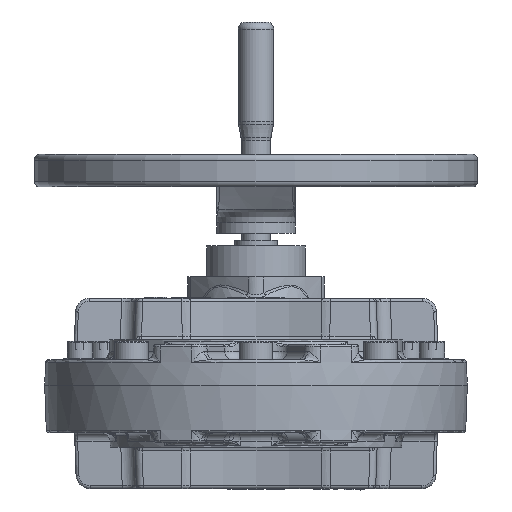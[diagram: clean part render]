
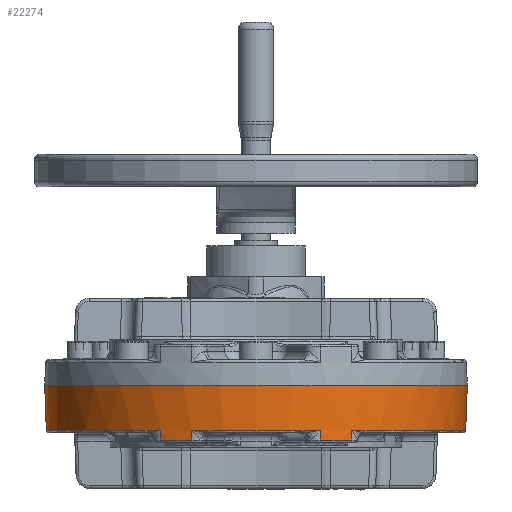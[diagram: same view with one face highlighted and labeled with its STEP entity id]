
A CAD part, front view. The second image highlights one B-rep face of the part: STEP entity #22274.
In plain terms, the highlighted conical face has half-angle 2 degrees and reference radius 150 mm.
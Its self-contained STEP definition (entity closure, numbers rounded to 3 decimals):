
#1021 = DIRECTION ( 'NONE',  ( 1., 0., 0. ) ) ;
#1418 = VERTEX_POINT ( 'NONE', #53707 ) ;
#1542 = CARTESIAN_POINT ( 'NONE',  ( 148.88, 0., -32.07 ) ) ;
#1573 = CARTESIAN_POINT ( 'NONE',  ( 67.686, -132.33, -39.07 ) ) ;
#2404 = DIRECTION ( 'NONE',  ( -1., 0., 0. ) ) ;
#6066 = ORIENTED_EDGE ( 'NONE', *, *, #96514, .T. ) ;
#8073 = DIRECTION ( 'NONE',  ( 1., 0., 0. ) ) ;
#8462 = CIRCLE ( 'NONE', #84625, 148.88 ) ;
#9427 = ORIENTED_EDGE ( 'NONE', *, *, #76457, .T. ) ;
#10807 = EDGE_CURVE ( 'NONE', #25017, #88072, #8462, .T. ) ;
#11443 = CIRCLE ( 'NONE', #102823, 150. ) ;
#12178 = AXIS2_PLACEMENT_3D ( 'NONE', #119766, #64010, #8073 ) ;
#13035 = ORIENTED_EDGE ( 'NONE', *, *, #30413, .T. ) ;
#14302 = ORIENTED_EDGE ( 'NONE', *, *, #101420, .F. ) ;
#14592 = AXIS2_PLACEMENT_3D ( 'NONE', #45090, #110342, #54522 ) ;
#17360 = DIRECTION ( 'NONE',  ( 0.011, -0.033, 0.999 ) ) ;
#17506 = VERTEX_POINT ( 'NONE', #53530 ) ;
#18941 = VECTOR ( 'NONE', #71130, 1000. ) ;
#22274 = ADVANCED_FACE ( 'NONE', ( #59595 ), #22961, .T. ) ;
#22567 = VERTEX_POINT ( 'NONE', #112332 ) ;
#22755 = CARTESIAN_POINT ( 'NONE',  ( 150., 0., 0. ) ) ;
#22961 = CONICAL_SURFACE ( 'NONE', #44579, 150., 0.035 ) ;
#24344 = DIRECTION ( 'NONE',  ( 0., 0., 1. ) ) ;
#25017 = VERTEX_POINT ( 'NONE', #41039 ) ;
#25941 = VERTEX_POINT ( 'NONE', #22755 ) ;
#26794 = ORIENTED_EDGE ( 'NONE', *, *, #118848, .T. ) ;
#29417 = CARTESIAN_POINT ( 'NONE',  ( 150., 0., 0. ) ) ;
#30413 = EDGE_CURVE ( 'NONE', #1418, #36617, #114374, .T. ) ;
#33574 = CARTESIAN_POINT ( 'NONE',  ( -68.307, -133.544, 0. ) ) ;
#33876 = EDGE_CURVE ( 'NONE', #61329, #36617, #82182, .T. ) ;
#34766 = LINE ( 'NONE', #29417, #106240 ) ;
#35745 = CARTESIAN_POINT ( 'NONE',  ( 46.13, -142.731, 0. ) ) ;
#36617 = VERTEX_POINT ( 'NONE', #111689 ) ;
#36907 = ORIENTED_EDGE ( 'NONE', *, *, #85376, .F. ) ;
#37170 = CARTESIAN_POINT ( 'NONE',  ( -150., 0., 0. ) ) ;
#38859 = DIRECTION ( 'NONE',  ( 0., 0., 1. ) ) ;
#39151 = DIRECTION ( 'NONE',  ( 0., 0., 1. ) ) ;
#41039 = CARTESIAN_POINT ( 'NONE',  ( 67.797, -132.547, -32.07 ) ) ;
#41559 = LINE ( 'NONE', #52690, #88274 ) ;
#42013 = VERTEX_POINT ( 'NONE', #1573 ) ;
#43780 = LINE ( 'NONE', #33574, #18941 ) ;
#44579 = AXIS2_PLACEMENT_3D ( 'NONE', #67263, #39151, #2404 ) ;
#45090 = CARTESIAN_POINT ( 'NONE',  ( 0., 0., -32.07 ) ) ;
#47682 = DIRECTION ( 'NONE',  ( -0.011, -0.033, 0.999 ) ) ;
#47744 = EDGE_CURVE ( 'NONE', #81136, #17506, #102831, .T. ) ;
#49572 = CIRCLE ( 'NONE', #61371, 148.636 ) ;
#52690 = CARTESIAN_POINT ( 'NONE',  ( 68.307, -133.544, 0. ) ) ;
#53530 = CARTESIAN_POINT ( 'NONE',  ( -45.71, -141.432, -39.07 ) ) ;
#53707 = CARTESIAN_POINT ( 'NONE',  ( -45.785, -141.665, -32.07 ) ) ;
#53928 = CARTESIAN_POINT ( 'NONE',  ( 0., 0., -39.07 ) ) ;
#54522 = DIRECTION ( 'NONE',  ( 1., 0., 0. ) ) ;
#55477 = ORIENTED_EDGE ( 'NONE', *, *, #10807, .T. ) ;
#55804 = VECTOR ( 'NONE', #55913, 1000. ) ;
#55913 = DIRECTION ( 'NONE',  ( -0.035, 0., 0.999 ) ) ;
#56774 = DIRECTION ( 'NONE',  ( 0.035, 0., 0.999 ) ) ;
#56956 = DIRECTION ( 'NONE',  ( 0., 0., 1. ) ) ;
#57383 = VECTOR ( 'NONE', #17360, 1000. ) ;
#58739 = CARTESIAN_POINT ( 'NONE',  ( -46.13, -142.731, 0. ) ) ;
#59594 = ORIENTED_EDGE ( 'NONE', *, *, #33876, .F. ) ;
#59595 = FACE_OUTER_BOUND ( 'NONE', #113849, .T. ) ;
#60382 = ORIENTED_EDGE ( 'NONE', *, *, #67520, .T. ) ;
#61329 = VERTEX_POINT ( 'NONE', #110139 ) ;
#61371 = AXIS2_PLACEMENT_3D ( 'NONE', #53928, #119104, #63359 ) ;
#62122 = DIRECTION ( 'NONE',  ( 0.016, -0.031, 0.999 ) ) ;
#62638 = ORIENTED_EDGE ( 'NONE', *, *, #47744, .T. ) ;
#63359 = DIRECTION ( 'NONE',  ( 1., 0., 0. ) ) ;
#64010 = DIRECTION ( 'NONE',  ( 0., 0., 1. ) ) ;
#67263 = CARTESIAN_POINT ( 'NONE',  ( 0., 0., 0. ) ) ;
#67520 = EDGE_CURVE ( 'NONE', #88072, #25941, #34766, .T. ) ;
#71130 = DIRECTION ( 'NONE',  ( -0.016, -0.031, 0.999 ) ) ;
#73848 = CARTESIAN_POINT ( 'NONE',  ( -67.686, -132.33, -39.07 ) ) ;
#73868 = ORIENTED_EDGE ( 'NONE', *, *, #109056, .T. ) ;
#76457 = EDGE_CURVE ( 'NONE', #61329, #42013, #49572, .T. ) ;
#80259 = CARTESIAN_POINT ( 'NONE',  ( 0., 0., -32.07 ) ) ;
#80647 = LINE ( 'NONE', #83659, #55804 ) ;
#81136 = VERTEX_POINT ( 'NONE', #73848 ) ;
#82182 = LINE ( 'NONE', #35745, #57383 ) ;
#83659 = CARTESIAN_POINT ( 'NONE',  ( -150., 0., 0. ) ) ;
#84625 = AXIS2_PLACEMENT_3D ( 'NONE', #112747, #56956, #1021 ) ;
#85376 = EDGE_CURVE ( 'NONE', #22567, #114372, #80647, .T. ) ;
#88072 = VERTEX_POINT ( 'NONE', #1542 ) ;
#88274 = VECTOR ( 'NONE', #62122, 1000. ) ;
#89636 = DIRECTION ( 'NONE',  ( 1., 0., 0. ) ) ;
#91436 = CIRCLE ( 'NONE', #98595, 148.88 ) ;
#91637 = CARTESIAN_POINT ( 'NONE',  ( -67.797, -132.547, -32.07 ) ) ;
#92118 = ORIENTED_EDGE ( 'NONE', *, *, #120085, .F. ) ;
#94666 = CARTESIAN_POINT ( 'NONE',  ( 0., 0., 0. ) ) ;
#95037 = LINE ( 'NONE', #58739, #119792 ) ;
#96514 = EDGE_CURVE ( 'NONE', #17506, #1418, #95037, .T. ) ;
#98595 = AXIS2_PLACEMENT_3D ( 'NONE', #80259, #24344, #89636 ) ;
#101420 = EDGE_CURVE ( 'NONE', #114372, #25941, #11443, .T. ) ;
#102823 = AXIS2_PLACEMENT_3D ( 'NONE', #94666, #38859, #104037 ) ;
#102831 = CIRCLE ( 'NONE', #12178, 148.636 ) ;
#104037 = DIRECTION ( 'NONE',  ( 1., 0., 0. ) ) ;
#106240 = VECTOR ( 'NONE', #56774, 1000. ) ;
#108003 = VERTEX_POINT ( 'NONE', #91637 ) ;
#109056 = EDGE_CURVE ( 'NONE', #22567, #108003, #91436, .T. ) ;
#110139 = CARTESIAN_POINT ( 'NONE',  ( 45.71, -141.432, -39.07 ) ) ;
#110342 = DIRECTION ( 'NONE',  ( 0., 0., 1. ) ) ;
#111689 = CARTESIAN_POINT ( 'NONE',  ( 45.785, -141.665, -32.07 ) ) ;
#112332 = CARTESIAN_POINT ( 'NONE',  ( -148.88, 0., -32.07 ) ) ;
#112747 = CARTESIAN_POINT ( 'NONE',  ( 0., 0., -32.07 ) ) ;
#113849 = EDGE_LOOP ( 'NONE', ( #55477, #60382, #14302, #36907, #73868, #92118, #62638, #6066, #13035, #59594, #9427, #26794 ) ) ;
#114372 = VERTEX_POINT ( 'NONE', #37170 ) ;
#114374 = CIRCLE ( 'NONE', #14592, 148.88 ) ;
#118848 = EDGE_CURVE ( 'NONE', #42013, #25017, #41559, .T. ) ;
#119104 = DIRECTION ( 'NONE',  ( 0., 0., 1. ) ) ;
#119766 = CARTESIAN_POINT ( 'NONE',  ( 0., 0., -39.07 ) ) ;
#119792 = VECTOR ( 'NONE', #47682, 1000. ) ;
#120085 = EDGE_CURVE ( 'NONE', #81136, #108003, #43780, .T. ) ;
